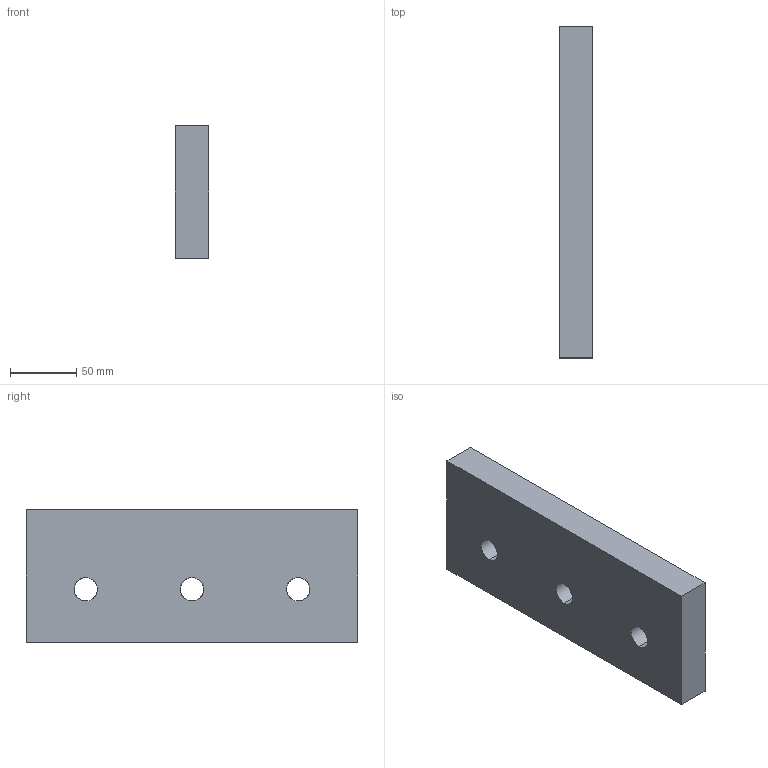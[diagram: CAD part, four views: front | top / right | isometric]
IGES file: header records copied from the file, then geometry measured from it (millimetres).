
Start section: START RECORD GO HERE.
Global section: file name: A612-100-250.igs; native system: DASSAULT SYSTEMES CATIA V5 R20 - www.3ds.com; preprocessor: CATIA Version 5 Release 20 ; author: Utente; organization: NB04-ASUS; date: 20200414.152121; units: millimetre
Bounding box: 25 x 250 x 100 mm (x, y, z)
Surface area: 70180.2 mm2 (no closed solid volume)
Topology: 0 solids, 0 shells, 12 faces, 60 edges, 60 vertices
Faces by surface type: extrusion 6, revolution 6
